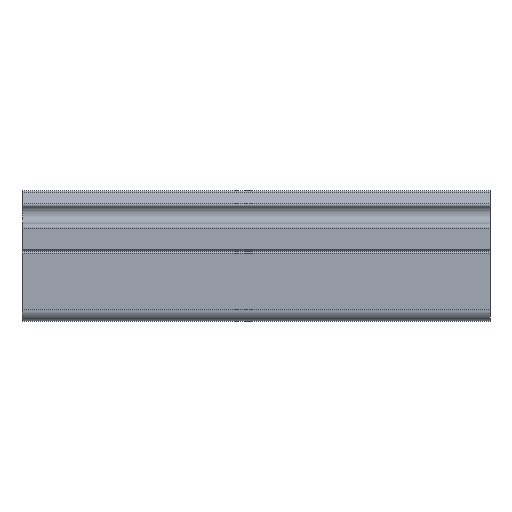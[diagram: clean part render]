
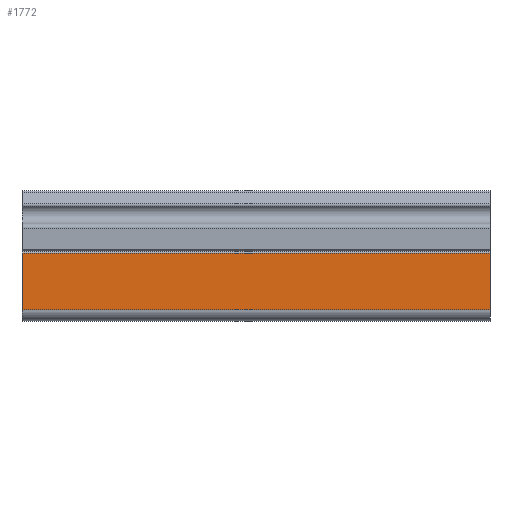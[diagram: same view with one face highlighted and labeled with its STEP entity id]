
A CAD part, front view. The second image highlights one B-rep face of the part: STEP entity #1772.
In plain terms, the highlighted planar face has unit normal (0, -1, -0.018).
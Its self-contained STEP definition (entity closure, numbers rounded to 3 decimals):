
#21 = LINE ( 'NONE', #210, #2183 ) ;
#71 = CARTESIAN_POINT ( 'NONE',  ( 100., -15.176, 14.521 ) ) ;
#197 = LINE ( 'NONE', #71, #1184 ) ;
#210 = CARTESIAN_POINT ( 'NONE',  ( 100., -15.176, 14.521 ) ) ;
#230 = CARTESIAN_POINT ( 'NONE',  ( 100., -14.965, 2.456 ) ) ;
#238 = EDGE_LOOP ( 'NONE', ( #530, #511, #793, #397 ) ) ;
#245 = EDGE_CURVE ( 'NONE', #615, #370, #197, .T. ) ;
#346 = DIRECTION ( 'NONE',  ( 0., 0.017, -1. ) ) ;
#370 = VERTEX_POINT ( 'NONE', #1780 ) ;
#397 = ORIENTED_EDGE ( 'NONE', *, *, #245, .T. ) ;
#438 = DIRECTION ( 'NONE',  ( 0., 0.017, -1. ) ) ;
#511 = ORIENTED_EDGE ( 'NONE', *, *, #2008, .F. ) ;
#530 = ORIENTED_EDGE ( 'NONE', *, *, #1011, .T. ) ;
#615 = VERTEX_POINT ( 'NONE', #1487 ) ;
#687 = LINE ( 'NONE', #2403, #2188 ) ;
#730 = VERTEX_POINT ( 'NONE', #1506 ) ;
#743 = FACE_OUTER_BOUND ( 'NONE', #238, .T. ) ;
#793 = ORIENTED_EDGE ( 'NONE', *, *, #1657, .F. ) ;
#1011 = EDGE_CURVE ( 'NONE', #370, #730, #687, .T. ) ;
#1184 = VECTOR ( 'NONE', #1567, 1000. ) ;
#1448 = DIRECTION ( 'NONE',  ( 0., 1., 0.017 ) ) ;
#1487 = CARTESIAN_POINT ( 'NONE',  ( 100., -15.176, 14.521 ) ) ;
#1506 = CARTESIAN_POINT ( 'NONE',  ( 0., -14.965, 2.456 ) ) ;
#1567 = DIRECTION ( 'NONE',  ( -1., 0., 0. ) ) ;
#1583 = VECTOR ( 'NONE', #1719, 1000. ) ;
#1626 = CARTESIAN_POINT ( 'NONE',  ( 100., -15.176, 14.521 ) ) ;
#1657 = EDGE_CURVE ( 'NONE', #615, #2021, #21, .T. ) ;
#1719 = DIRECTION ( 'NONE',  ( -1., 0., 0. ) ) ;
#1772 = ADVANCED_FACE ( 'NONE', ( #743 ), #2218, .F. ) ;
#1780 = CARTESIAN_POINT ( 'NONE',  ( 0., -15.176, 14.521 ) ) ;
#1917 = CARTESIAN_POINT ( 'NONE',  ( 100., -14.965, 2.456 ) ) ;
#2007 = DIRECTION ( 'NONE',  ( 0., -0.017, 1. ) ) ;
#2008 = EDGE_CURVE ( 'NONE', #2021, #730, #2028, .T. ) ;
#2021 = VERTEX_POINT ( 'NONE', #1917 ) ;
#2028 = LINE ( 'NONE', #230, #1583 ) ;
#2183 = VECTOR ( 'NONE', #438, 1000. ) ;
#2188 = VECTOR ( 'NONE', #346, 1000. ) ;
#2218 = PLANE ( 'NONE',  #2430 ) ;
#2403 = CARTESIAN_POINT ( 'NONE',  ( 0., -15.176, 14.521 ) ) ;
#2430 = AXIS2_PLACEMENT_3D ( 'NONE', #1626, #1448, #2007 ) ;
